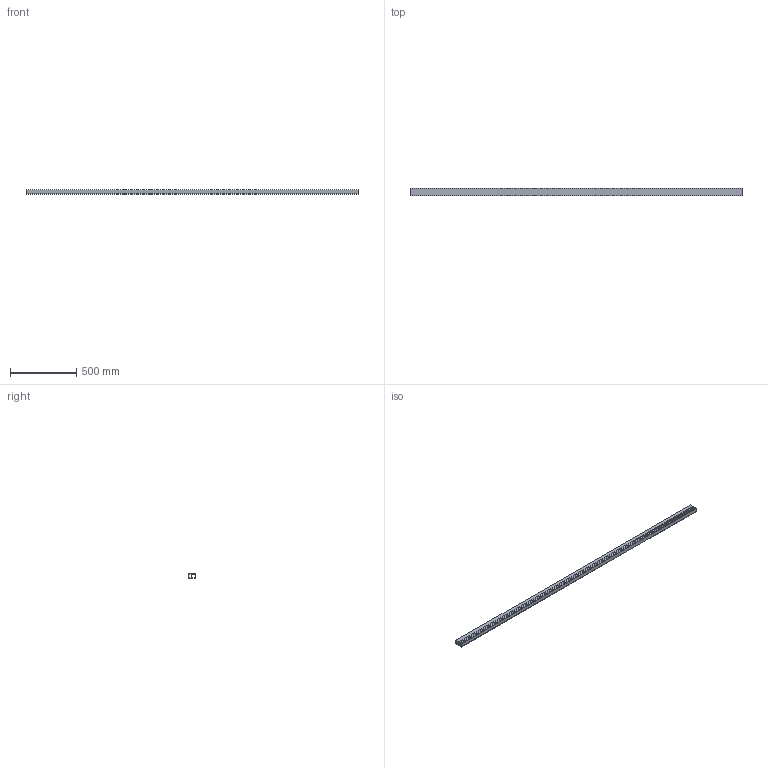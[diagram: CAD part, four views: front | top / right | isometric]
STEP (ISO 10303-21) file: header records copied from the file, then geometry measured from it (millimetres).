
FILE_DESCRIPTION(('STEP AP242'),'1');
FILE_NAME('OPO_65.081.42_volu_3d.stp','2026-01-30T20:50:30',(' '),(' '),'Spatial InterOp 3D',' ',' ');
FILE_SCHEMA(('AP242_MANAGED_MODEL_BASED_3D_ENGINEERING_MIM_LF {1 0 10303 442 1 1 4}'));
Length unit declared in the file: millimetre
Products named in the file (1): 1
Bounding box: 2500 x 59 x 33 mm (x, y, z)
Volume: 1189843.8 mm3; surface area: 979478.7 mm2
Topology: 1 solids, 1 shells, 88 faces, 244 edges, 162 vertices
Faces by surface type: plane 68, cylinder 20
Entity records: 3516 total; most frequent: CARTESIAN_POINT 495, ORIENTED_EDGE 488, DIRECTION 462, EDGE_CURVE 244, LINE 204, VECTOR 204, VERTEX_POINT 162, AXIS2_PLACEMENT_3D 129
